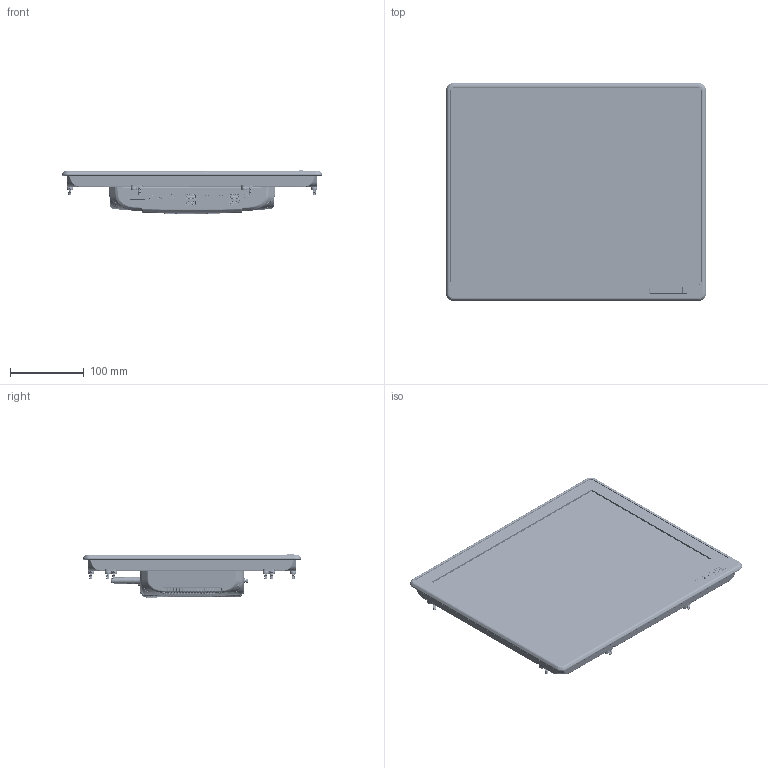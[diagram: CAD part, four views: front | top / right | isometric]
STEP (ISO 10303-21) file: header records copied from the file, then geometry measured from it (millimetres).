
FILE_DESCRIPTION (( 'STEP AP214' ), '1' );
FILE_NAME ('150.STEP', '2024-04-25T00:51:45', ( '' ), ( '' ), 'SwSTEP 2.0', 'SolidWorks 2018', '' );
FILE_SCHEMA (( 'AUTOMOTIVE_DESIGN' ));
Length unit declared in the file: millimetre
Products named in the file (1): 150
Bounding box: 352.76 x 295.76 x 58.46 mm (x, y, z)
Surface area: 830211.9 mm2 (no closed solid volume)
Topology: 0 solids, 363 shells, 24608 faces, 64413 edges, 40957 vertices
Faces by surface type: plane 15617, cylinder 5413, bspline 2419, torus 707, sphere 238, cone 214
Full cylindrical faces by diameter (mm): 0.6 x18, 0.8 x4, 1 x9, 1.1 x24, 1.2 x9, 2 x2, 2.2 x14, 2.3 x2, 2.5 x2, 2.6 x2, 2.975 x2, 3 x8, 3.136 x2, 3.2 x20, 3.3 x8, 3.5 x10, 4 x8, 4.2 x15, 4.5 x12, 4.9 x2, 5.9 x1, 6 x15, 6.5 x1, 7.306 x4, 7.6 x1, 8.1 x2, 8.2 x2, 8.429 x4
Entity records: 1142542 total; most frequent: CARTESIAN_POINT 283754, ORIENTED_EDGE 127040, DIRECTION 111475, EDGE_CURVE 63525, VECTOR 44953, LINE 44953, VERTEX_POINT 40806, AXIS2_PLACEMENT_3D 33261
